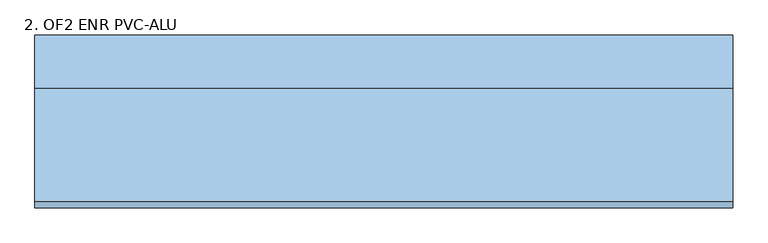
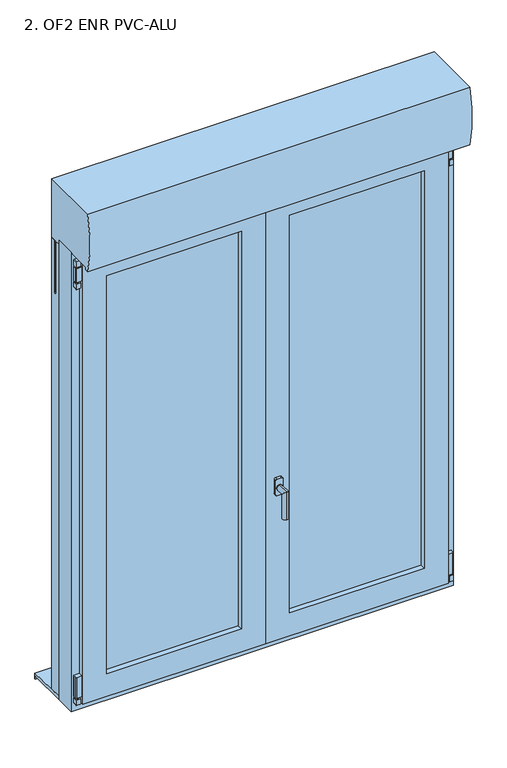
"""IFC4 building model written with IfcOpenShell, lengths in millimetres: window geometry, 2. OF2 ENR PVC-ALU : 130X165 (LXH) cm."""

from ifc_helpers import new_model, si_unit, point, frame, frame_2d, origin, place, context, project, spatial, polyline, circle_curve, ellipse_curve, trimmed, segment, composite_curve, outline, extrude, faceted_brep, source, transform, mapped, element, save
from ifc_brep_helpers import plane_surface, cylinder_surface, advanced_brep


def window_2_of2_enr_pvc_alu_a784acc1(model_context):
    return source(origin(), model_context, "Body", "SolidModel", [
        extrude(outline(composite_curve([segment(polyline([(2401.5409737, -626.56), (2419.5732983, -626.56)]), True, "CONTINUOUS"), segment(trimmed(circle_curve(frame_2d((2419.5732983, -628.5276754)), 1.9676754), [point((2419.5732983, -626.56))], [point((2421.5409737, -628.5276754))], False, "CARTESIAN"), True, "CONTINUOUS"), segment(polyline([(2421.5409737, -628.5276754), (2421.5409737, -639.5663831)]), True, "CONTINUOUS"), segment(trimmed(circle_curve(frame_2d((2419.5473568, -639.5663831)), 1.9936169), [point((2421.5409737, -639.5663831))], [point((2419.5473568, -641.56))], False, "CARTESIAN"), True, "CONTINUOUS"), segment(polyline([(2419.5473568, -641.56), (2401.5409737, -641.56), (2401.5409737, -626.56)]), True, "CONTINUOUS")], self_intersect=False)), frame((0.0, -115.0338923, 0.0), z_axis=(0.0, 1.0, 0.0), x_axis=(0.0, 0.0, 1.0)), (0.0, 0.0, 1.0), 15.0),
        extrude(outline(composite_curve([segment(trimmed(circle_curve(frame_2d((-634.2805562, -107.5434807)), 5.0), [point((-629.2805562, -107.5434807))], [point((-639.2805562, -107.5434807))], False, "CARTESIAN"), True, "CONTINUOUS"), segment(trimmed(circle_curve(frame_2d((-634.2805562, -107.5434807)), 5.0), [point((-639.2805562, -107.5434807))], [point((-629.2805562, -107.5434807))], False, "CARTESIAN"), True, "CONTINUOUS")], self_intersect=False)), frame((0.0, 0.0, 2341.5409737), z_axis=(0.0, 0.0, 1.0), x_axis=(1.0, 0.0, 0.0)), (0.0, 0.0, 1.0), 60.0),
        extrude(outline(composite_curve([segment(polyline([(-621.56, -100.0434807), (-621.56, -115.0434807), (-639.5418225, -115.0434807)]), True, "CONTINUOUS"), segment(trimmed(circle_curve(frame_2d((-639.5418225, -113.0253033)), 2.0181775), [point((-639.5418225, -115.0434807))], [point((-641.56, -113.0253033))], False, "CARTESIAN"), True, "CONTINUOUS"), segment(polyline([(-641.56, -113.0253033), (-641.56, -102.001657)]), True, "CONTINUOUS"), segment(trimmed(circle_curve(frame_2d((-639.6018237, -102.001657)), 1.9581763), [point((-641.56, -102.001657))], [point((-639.6018237, -100.0434807))], False, "CARTESIAN"), True, "CONTINUOUS"), segment(polyline([(-639.6018237, -100.0434807), (-621.56, -100.0434807)]), True, "CONTINUOUS")], self_intersect=False)), frame((0.0, 0.0, 2347.2674355), z_axis=(0.0, 0.0, 1.0), x_axis=(1.0, 0.0, 0.0)), (0.0, 0.0, 1.0), 50.0),
        extrude(outline(composite_curve([segment(polyline([(2342.2674355, -641.7805562), (2323.9176409, -641.7805562)]), True, "CONTINUOUS"), segment(trimmed(circle_curve(frame_2d((2324.2411049, -639.8068867)), 2.0), [point((2323.9176409, -641.7805562))], [point((2322.2674355, -640.1303507))], False, "CARTESIAN"), True, "CONTINUOUS"), segment(polyline([(2322.2674355, -640.1303507), (2322.2674355, -628.7898059)]), True, "CONTINUOUS"), segment(trimmed(circle_curve(frame_2d((2324.2766853, -628.7898059)), 2.0092498), [point((2322.2674355, -628.7898059))], [point((2324.2766853, -626.7805562))], False, "CARTESIAN"), True, "CONTINUOUS"), segment(polyline([(2324.2766853, -626.7805562), (2342.2674355, -626.7805562), (2342.2674355, -641.7805562)]), True, "CONTINUOUS")], self_intersect=False)), frame((0.0, -115.0338923, 0.0), z_axis=(0.0, 1.0, 0.0), x_axis=(0.0, 0.0, 1.0)), (0.0, 0.0, 1.0), 15.0),
        extrude(outline(composite_curve([segment(trimmed(circle_curve(frame_2d((-634.2805562, -107.5434807)), 5.0), [point((-629.2805562, -107.5434807))], [point((-639.2805562, -107.5434807))], False, "CARTESIAN"), True, "CONTINUOUS"), segment(trimmed(circle_curve(frame_2d((-634.2805562, -107.5434807)), 5.0), [point((-639.2805562, -107.5434807))], [point((-629.2805562, -107.5434807))], False, "CARTESIAN"), True, "CONTINUOUS")], self_intersect=False)), frame((0.0, 0.0, 848.448), z_axis=(0.0, 0.0, 1.0), x_axis=(1.0, 0.0, 0.0)), (0.0, 0.0, 1.0), 5.0),
        extrude(outline(composite_curve([segment(polyline([(848.448, -641.7805562), (830.0982054, -641.7805562)]), True, "CONTINUOUS"), segment(trimmed(circle_curve(frame_2d((830.4216694, -639.8068867)), 2.0), [point((830.0982054, -641.7805562))], [point((828.448, -640.1303507))], False, "CARTESIAN"), True, "CONTINUOUS"), segment(polyline([(828.448, -640.1303507), (828.448, -628.7898059)]), True, "CONTINUOUS"), segment(trimmed(circle_curve(frame_2d((830.4572498, -628.7898059)), 2.0092498), [point((828.448, -628.7898059))], [point((830.4572498, -626.7805562))], False, "CARTESIAN"), True, "CONTINUOUS"), segment(polyline([(830.4572498, -626.7805562), (848.448, -626.7805562), (848.448, -641.7805562)]), True, "CONTINUOUS")], self_intersect=False)), frame((0.0, -115.0338923, 0.0), z_axis=(0.0, 1.0, 0.0), x_axis=(0.0, 0.0, 1.0)), (0.0, 0.0, 1.0), 15.0),
        extrude(outline(composite_curve([segment(polyline([(-621.56, -100.0434807), (-621.56, -115.0434807), (-639.5418225, -115.0434807)]), True, "CONTINUOUS"), segment(trimmed(circle_curve(frame_2d((-639.5418225, -113.0253033)), 2.0181775), [point((-639.5418225, -115.0434807))], [point((-641.56, -113.0253033))], False, "CARTESIAN"), True, "CONTINUOUS"), segment(polyline([(-641.56, -113.0253033), (-641.56, -102.001657)]), True, "CONTINUOUS"), segment(trimmed(circle_curve(frame_2d((-639.6018237, -102.001657)), 1.9581763), [point((-641.56, -102.001657))], [point((-639.6018237, -100.0434807))], False, "CARTESIAN"), True, "CONTINUOUS"), segment(polyline([(-639.6018237, -100.0434807), (-621.56, -100.0434807)]), True, "CONTINUOUS")], self_intersect=False)), frame((0.0, 0.0, 853.448), z_axis=(0.0, 0.0, 1.0), x_axis=(1.0, 0.0, 0.0)), (0.0, 0.0, 1.0), 75.0),
        extrude(outline(composite_curve([segment(polyline([(2401.5409737, 626.552), (2401.5409737, 641.552), (2419.5473568, 641.552)]), True, "CONTINUOUS"), segment(trimmed(circle_curve(frame_2d((2419.5473568, 639.5583831)), 1.9936169), [point((2419.5473568, 641.552))], [point((2421.5409737, 639.5583831))], False, "CARTESIAN"), True, "CONTINUOUS"), segment(polyline([(2421.5409737, 639.5583831), (2421.5409737, 628.5196754)]), True, "CONTINUOUS"), segment(trimmed(circle_curve(frame_2d((2419.5732983, 628.5196754)), 1.9676754), [point((2421.5409737, 628.5196754))], [point((2419.5732983, 626.552))], False, "CARTESIAN"), True, "CONTINUOUS"), segment(polyline([(2419.5732983, 626.552), (2401.5409737, 626.552)]), True, "CONTINUOUS")], self_intersect=False)), frame((0.0, -115.0338923, 0.0), z_axis=(0.0, 1.0, 0.0), x_axis=(0.0, 0.0, 1.0)), (0.0, 0.0, 1.0), 15.0),
        extrude(outline(composite_curve([segment(trimmed(circle_curve(frame_2d((634.2725562, -107.5434807)), 5.0), [point((629.2725562, -107.5434807))], [point((639.2725562, -107.5434807))], False, "CARTESIAN"), True, "CONTINUOUS"), segment(trimmed(circle_curve(frame_2d((634.2725562, -107.5434807)), 5.0), [point((639.2725562, -107.5434807))], [point((629.2725562, -107.5434807))], False, "CARTESIAN"), True, "CONTINUOUS")], self_intersect=False)), frame((0.0, 0.0, 2341.5409737), z_axis=(0.0, 0.0, 1.0), x_axis=(1.0, 0.0, 0.0)), (0.0, 0.0, 1.0), 60.0),
        extrude(outline(composite_curve([segment(polyline([(621.552, -100.0434807), (639.5938237, -100.0434807)]), True, "CONTINUOUS"), segment(trimmed(circle_curve(frame_2d((639.5938237, -102.001657)), 1.9581763), [point((639.5938237, -100.0434807))], [point((641.552, -102.001657))], False, "CARTESIAN"), True, "CONTINUOUS"), segment(polyline([(641.552, -102.001657), (641.552, -113.0253033)]), True, "CONTINUOUS"), segment(trimmed(circle_curve(frame_2d((639.5338225, -113.0253033)), 2.0181775), [point((641.552, -113.0253033))], [point((639.5338225, -115.0434807))], False, "CARTESIAN"), True, "CONTINUOUS"), segment(polyline([(639.5338225, -115.0434807), (621.552, -115.0434807), (621.552, -100.0434807)]), True, "CONTINUOUS")], self_intersect=False)), frame((0.0, 0.0, 2347.2674355), z_axis=(0.0, 0.0, 1.0), x_axis=(1.0, 0.0, 0.0)), (0.0, 0.0, 1.0), 50.0),
        extrude(outline(composite_curve([segment(polyline([(2342.2674355, 641.7725562), (2342.2674355, 626.7725562), (2324.2766853, 626.7725562)]), True, "CONTINUOUS"), segment(trimmed(circle_curve(frame_2d((2324.2766853, 628.7818059)), 2.0092498), [point((2324.2766853, 626.7725562))], [point((2322.2674355, 628.7818059))], False, "CARTESIAN"), True, "CONTINUOUS"), segment(polyline([(2322.2674355, 628.7818059), (2322.2674355, 640.1223507)]), True, "CONTINUOUS"), segment(trimmed(circle_curve(frame_2d((2324.2411049, 639.7988867)), 2.0), [point((2322.2674355, 640.1223507))], [point((2323.9176409, 641.7725562))], False, "CARTESIAN"), True, "CONTINUOUS"), segment(polyline([(2323.9176409, 641.7725562), (2342.2674355, 641.7725562)]), True, "CONTINUOUS")], self_intersect=False)), frame((0.0, -115.0338923, 0.0), z_axis=(0.0, 1.0, 0.0), x_axis=(0.0, 0.0, 1.0)), (0.0, 0.0, 1.0), 15.0),
        extrude(outline(composite_curve([segment(trimmed(circle_curve(frame_2d((634.2725562, -107.5434807)), 5.0), [point((629.2725562, -107.5434807))], [point((639.2725562, -107.5434807))], False, "CARTESIAN"), True, "CONTINUOUS"), segment(trimmed(circle_curve(frame_2d((634.2725562, -107.5434807)), 5.0), [point((639.2725562, -107.5434807))], [point((629.2725562, -107.5434807))], False, "CARTESIAN"), True, "CONTINUOUS")], self_intersect=False)), frame((0.0, 0.0, 848.448), z_axis=(0.0, 0.0, 1.0), x_axis=(1.0, 0.0, 0.0)), (0.0, 0.0, 1.0), 5.0),
        extrude(outline(composite_curve([segment(polyline([(848.448, 641.7725562), (848.448, 626.7725562), (830.4572498, 626.7725562)]), True, "CONTINUOUS"), segment(trimmed(circle_curve(frame_2d((830.4572498, 628.7818059)), 2.0092498), [point((830.4572498, 626.7725562))], [point((828.448, 628.7818059))], False, "CARTESIAN"), True, "CONTINUOUS"), segment(polyline([(828.448, 628.7818059), (828.448, 640.1223507)]), True, "CONTINUOUS"), segment(trimmed(circle_curve(frame_2d((830.4216694, 639.7988867)), 2.0), [point((828.448, 640.1223507))], [point((830.0982054, 641.7725562))], False, "CARTESIAN"), True, "CONTINUOUS"), segment(polyline([(830.0982054, 641.7725562), (848.448, 641.7725562)]), True, "CONTINUOUS")], self_intersect=False)), frame((0.0, -115.0338923, 0.0), z_axis=(0.0, 1.0, 0.0), x_axis=(0.0, 0.0, 1.0)), (0.0, 0.0, 1.0), 15.0),
        extrude(outline(composite_curve([segment(polyline([(621.552, -100.0434807), (639.5938237, -100.0434807)]), True, "CONTINUOUS"), segment(trimmed(circle_curve(frame_2d((639.5938237, -102.001657)), 1.9581763), [point((639.5938237, -100.0434807))], [point((641.552, -102.001657))], False, "CARTESIAN"), True, "CONTINUOUS"), segment(polyline([(641.552, -102.001657), (641.552, -113.0253033)]), True, "CONTINUOUS"), segment(trimmed(circle_curve(frame_2d((639.5338225, -113.0253033)), 2.0181775), [point((641.552, -113.0253033))], [point((639.5338225, -115.0434807))], False, "CARTESIAN"), True, "CONTINUOUS"), segment(polyline([(639.5338225, -115.0434807), (621.552, -115.0434807), (621.552, -100.0434807)]), True, "CONTINUOUS")], self_intersect=False)), frame((0.0, 0.0, 853.448), z_axis=(0.0, 0.0, 1.0), x_axis=(1.0, 0.0, 0.0)), (0.0, 0.0, 1.0), 75.0),
        faceted_brep([(649.992, -28.9, 2450.0), (649.992, -100.02, 2450.0), (649.992, -100.02, 800.0), (649.992, -28.9, 800.0), (-650.008, -100.02, 2450.0), (-650.008, -100.02, 800.0), (613.416, -100.02, 836.576), (-613.432, -100.02, 836.576), (-613.432, -100.02, 2413.424), (613.416, -100.02, 2413.424), (-650.008, -28.9, 800.0), (-650.008, -28.9, 2450.0), (592.0903858, -28.9, 2392.0983858), (-592.1063858, -28.9, 2392.0983858), (-592.1063858, -28.9, 857.9016142), (592.0903858, -28.9, 857.9016142), (613.416, -44.648, 2413.424), (613.416, -44.648, 836.576), (-613.432, -44.648, 2413.424), (-613.432, -44.648, 836.576), (592.0903858, -44.648, 857.9016142), (-592.1063858, -44.648, 857.9016142), (-592.1063858, -44.648, 2392.0983858), (592.0903858, -44.648, 2392.0983858)], [[[0, 1, 2, 3]], [[1, 4, 5, 2], [6, 7, 8, 9]], [[3, 2, 5, 10]], [[3, 10, 11, 0], [12, 13, 14, 15]], [[9, 16, 17, 6]], [[16, 18, 19, 17], [20, 21, 22, 23]], [[6, 17, 19, 7]], [[23, 12, 15, 20]], [[20, 15, 14, 21]], [[10, 5, 4, 11]], [[7, 19, 18, 8]], [[21, 14, 13, 22]], [[11, 4, 1, 0]], [[8, 18, 16, 9]], [[22, 13, 12, 23]]]),
        faceted_brep([(-650.0, -100.02, 2450.0), (-650.0, -28.9, 2450.0), (-650.0, -28.9, 800.0), (-650.0, -100.02, 800.0), (650.0, -28.9, 2450.0), (650.0, -28.9, 800.0), (-592.0983858, -28.9, 857.9016142), (592.0983858, -28.9, 857.9016142), (592.0983858, -28.9, 2392.0983858), (-592.0983858, -28.9, 2392.0983858), (650.0, -100.02, 800.0), (650.0, -100.02, 2450.0), (-613.424, -100.02, 2413.424), (613.424, -100.02, 2413.424), (613.424, -100.02, 836.576), (-613.424, -100.02, 836.576), (-613.424, -44.648, 2413.424), (-613.424, -44.648, 836.576), (613.424, -44.648, 836.576), (613.424, -44.648, 2413.424), (-592.0983858, -44.648, 2392.0983858), (592.0983858, -44.648, 2392.0983858), (592.0983858, -44.648, 857.9016142), (-592.0983858, -44.648, 857.9016142)], [[[0, 1, 2, 3]], [[1, 4, 5, 2], [6, 7, 8, 9]], [[3, 2, 5, 10]], [[3, 10, 11, 0], [12, 13, 14, 15]], [[16, 12, 15, 17]], [[17, 15, 14, 18]], [[17, 18, 19, 16], [20, 21, 22, 23]], [[9, 20, 23, 6]], [[6, 23, 22, 7]], [[10, 5, 4, 11]], [[18, 14, 13, 19]], [[7, 22, 21, 8]], [[11, 4, 1, 0]], [[19, 13, 12, 16]], [[8, 21, 20, 9]]]),
        faceted_brep([(-561.6166701, -100.019954, 2361.6086701), (-561.6166701, -48.2039543, 2361.6086701), (-561.6166701, -48.2039543, 888.3913299), (-561.6166701, -100.019954, 888.3913299), (-586.5594701, -48.2039543, 863.4485299), (-35.0045299, -48.2039543, 863.4485299), (-35.0045299, -48.2039543, 2386.5514701), (-586.5594701, -48.2039543, 2386.5514701), (-59.9473299, -48.2039543, 2361.6086701), (-59.9473299, -48.2039543, 888.3913299), (-59.9473299, -100.019954, 888.3913299), (-59.9473299, -100.019954, 2361.6086701), (-553.4255117, -100.019954, 2353.4175117), (-68.1384883, -100.019954, 2353.4175117), (-68.1384883, -100.019954, 896.5824883), (-553.4255117, -100.019954, 896.5824883), (-586.5594701, -28.7475756, 2386.5514701), (-586.5594701, -28.7475756, 863.4485299), (-35.0045299, -28.7475756, 2386.5514701), (-35.0045299, -28.7475756, 863.4485299), (-535.3473386, -28.7475756, 914.6606614), (-86.2166614, -28.7475756, 914.6606614), (-86.2166614, -28.7475756, 2335.3393386), (-535.3473386, -28.7475756, 2335.3393386), (-535.3473386, -41.9786213, 2335.3393386), (-535.3473386, -41.9786213, 914.6606614), (-553.4255117, -41.9786213, 896.5824883), (-68.1384883, -41.9786213, 896.5824883), (-68.1384883, -41.9786213, 2353.4175117), (-553.4255117, -41.9786213, 2353.4175117), (-86.2166614, -41.9786213, 2335.3393386), (-86.2166614, -41.9786213, 914.6606614), (-539.5320492, -72.9786213, 2339.5240492), (-539.5320492, -96.019954, 2339.5240492), (-539.5320492, -96.019954, 910.4759508), (-539.5320492, -72.9786213, 910.4759508), (-553.4255117, -96.019954, 896.5824883), (-68.1384883, -96.019954, 896.5824883), (-68.1384883, -96.019954, 2353.4175117), (-553.4255117, -96.019954, 2353.4175117), (-82.0319508, -96.019954, 2339.5240492), (-82.0319508, -96.019954, 910.4759508), (-82.0319508, -72.9786213, 910.4759508), (-553.4255117, -72.9786213, 2353.4175117), (-68.1384883, -72.9786213, 2353.4175117), (-68.1384883, -72.9786213, 896.5824883), (-553.4255117, -72.9786213, 896.5824883), (-82.0319508, -72.9786213, 2339.5240492), (-68.1384883, -68.9786213, 896.5824883), (-68.1384883, -68.9786213, 2353.4175117), (-553.4255117, -68.9786213, 896.5824883), (-553.4255117, -68.9786213, 2353.4175117), (-536.2054041, -68.9786213, 2336.1974041), (-85.3585959, -68.9786213, 2336.1974041), (-85.3585959, -68.9786213, 913.8025959), (-536.2054041, -68.9786213, 913.8025959), (-85.3585959, -45.9786213, 913.8025959), (-85.3585959, -45.9786213, 2336.1974041), (-536.2054041, -45.9786213, 913.8025959), (-536.2054041, -45.9786213, 2336.1974041), (-553.4255117, -45.9786213, 2353.4175117), (-553.4255117, -45.9786213, 896.5824883), (-68.1384883, -45.9786213, 2353.4175117), (-68.1384883, -45.9786213, 896.5824883)], [[[0, 1, 2, 3]], [[4, 5, 6, 7], [1, 8, 9, 2]], [[3, 2, 9, 10]], [[3, 10, 11, 0], [12, 13, 14, 15]], [[7, 16, 17, 4]], [[16, 18, 19, 17], [20, 21, 22, 23]], [[4, 17, 19, 5]], [[23, 24, 25, 20]], [[26, 27, 28, 29], [24, 30, 31, 25]], [[20, 25, 31, 21]], [[32, 33, 34, 35]], [[36, 37, 38, 39], [33, 40, 41, 34]], [[35, 34, 41, 42]], [[43, 44, 45, 46], [35, 42, 47, 32]], [[10, 9, 8, 11]], [[5, 19, 18, 6]], [[21, 31, 30, 22]], [[42, 41, 40, 47]], [[37, 14, 13, 38]], [[36, 15, 14, 37]], [[39, 12, 15, 36]], [[48, 45, 44, 49]], [[50, 46, 45, 48]], [[51, 43, 46, 50]], [[50, 48, 49, 51], [52, 53, 54, 55]], [[56, 54, 53, 57]], [[58, 55, 54, 56]], [[59, 52, 55, 58]], [[29, 60, 61, 26]], [[60, 62, 63, 61], [58, 56, 57, 59]], [[26, 61, 63, 27]], [[27, 63, 62, 28]], [[11, 8, 1, 0]], [[6, 18, 16, 7]], [[22, 30, 24, 23]], [[47, 40, 33, 32]], [[38, 13, 12, 39]], [[49, 44, 43, 51]], [[57, 53, 52, 59]], [[28, 62, 60, 29]]]),
        extrude(outline(polyline([(-553.408, -100.019954), (-553.408, -96.019954), (-68.108, -96.019954), (-68.108, -100.019954), (-553.408, -100.019954)])), frame((0.0, 0.0, 896.5824883), z_axis=(0.0, 0.0, 1.0), x_axis=(1.0, 0.0, 0.0)), (0.0, 0.0, 1.0), 1456.8350233),
        extrude(outline(polyline([(-553.408, -72.9786213), (-553.408, -68.9786213), (-68.108, -68.9786213), (-68.108, -72.9786213), (-553.408, -72.9786213)])), frame((0.0, 0.0, 896.5824883), z_axis=(0.0, 0.0, 1.0), x_axis=(1.0, 0.0, 0.0)), (0.0, 0.0, 1.0), 1456.8350233),
        extrude(outline(polyline([(-553.408, -45.9786213), (-553.408, -41.9786213), (-68.108, -41.9786213), (-68.108, -45.9786213), (-553.408, -45.9786213)])), frame((0.0, 0.0, 896.5824883), z_axis=(0.0, 0.0, 1.0), x_axis=(1.0, 0.0, 0.0)), (0.0, 0.0, 1.0), 1456.8350233),
        faceted_brep([(-0.004, -100.0434807, 2421.552), (-0.004, -119.3239543, 2421.552), (-0.004, -119.3239543, 828.448), (-0.004, -100.0434807, 828.448), (-621.56, -119.3239543, 2421.552), (-621.56, -119.3239543, 828.448), (-82.2054957, -119.3239543, 910.6494957), (-539.3585043, -119.3239543, 910.6494957), (-539.3585043, -119.3239543, 2339.3505043), (-82.2054957, -119.3239543, 2339.3505043), (-621.56, -100.0434807, 828.448), (-621.56, -100.0434807, 2421.552), (-20.324, -100.0434807, 2401.232), (-601.24, -100.0434807, 2401.232), (-601.24, -100.0434807, 848.768), (-20.324, -100.0434807, 848.768), (-82.2054957, -100.019954, 2339.3505043), (-82.2054957, -100.019954, 910.6494957), (-59.9473299, -100.019954, 888.3913299), (-561.6166701, -100.019954, 888.3913299), (-561.6166701, -100.019954, 2361.6086701), (-59.9473299, -100.019954, 2361.6086701), (-539.3585043, -100.019954, 2339.3505043), (-539.3585043, -100.019954, 910.6494957), (-59.9473299, -48.2039543, 2361.6086701), (-59.9473299, -48.2039543, 888.3913299), (-29.4576142, -48.2039543, 857.9016142), (-592.1063858, -48.2039543, 857.9016142), (-592.1063858, -48.2039543, 2392.0983858), (-29.4576142, -48.2039543, 2392.0983858), (-561.6166701, -48.2039543, 2361.6086701), (-561.6166701, -48.2039543, 888.3913299), (-29.4576142, -44.648, 2392.0983858), (-29.4576142, -44.648, 857.9016142), (-20.324, -44.648, 848.768), (-601.24, -44.648, 848.768), (-601.24, -44.648, 2401.232), (-20.324, -44.648, 2401.232), (-592.1063858, -44.648, 2392.0983858), (-592.1063858, -44.648, 857.9016142)], [[[0, 1, 2, 3]], [[1, 4, 5, 2], [6, 7, 8, 9]], [[3, 2, 5, 10]], [[3, 10, 11, 0], [12, 13, 14, 15]], [[9, 16, 17, 6]], [[18, 19, 20, 21], [16, 22, 23, 17]], [[6, 17, 23, 7]], [[21, 24, 25, 18]], [[26, 27, 28, 29], [24, 30, 31, 25]], [[18, 25, 31, 19]], [[29, 32, 33, 26]], [[34, 35, 36, 37], [32, 38, 39, 33]], [[26, 33, 39, 27]], [[37, 12, 15, 34]], [[34, 15, 14, 35]], [[10, 5, 4, 11]], [[7, 23, 22, 8]], [[19, 31, 30, 20]], [[27, 39, 38, 28]], [[35, 14, 13, 36]], [[11, 4, 1, 0]], [[8, 22, 16, 9]], [[20, 30, 24, 21]], [[28, 38, 32, 29]], [[36, 13, 12, 37]]]),
        extrude(outline(polyline([(553.4, -96.019954), (553.4, -100.019954), (68.1, -100.019954), (68.1, -96.019954), (553.4, -96.019954)])), frame((0.0, 0.0, 896.5824883), z_axis=(0.0, 0.0, 1.0), x_axis=(1.0, 0.0, 0.0)), (0.0, 0.0, 1.0), 1456.8350233),
        extrude(outline(polyline([(553.4, -68.9786213), (553.4, -72.9786213), (68.1, -72.9786213), (68.1, -68.9786213), (553.4, -68.9786213)])), frame((0.0, 0.0, 896.5824883), z_axis=(0.0, 0.0, 1.0), x_axis=(1.0, 0.0, 0.0)), (0.0, 0.0, 1.0), 1456.8350233),
        extrude(outline(polyline([(553.4, -41.9786213), (553.4, -45.9786213), (68.1, -45.9786213), (68.1, -41.9786213), (553.4, -41.9786213)])), frame((0.0, 0.0, 896.5824883), z_axis=(0.0, 0.0, 1.0), x_axis=(1.0, 0.0, 0.0)), (0.0, 0.0, 1.0), 1456.8350233),
        extrude(outline(polyline([(20.324, -100.0434807), (-20.316, -100.0434807), (-20.316, -44.648), (-34.9965299, -44.648), (-34.9965299, -28.7475756), (35.0045299, -28.7475756), (35.0045299, -44.648), (20.324, -44.648), (20.324, -100.0434807)])), frame((0.0, 0.0, 857.9016142), z_axis=(0.0, 0.0, 1.0), x_axis=(1.0, 0.0, 0.0)), (0.0, 0.0, 1.0), 1534.2),
        faceted_brep([(561.6086701, -48.2039543, 2361.6086701), (561.6086701, -100.019954, 2361.6086701), (561.6086701, -100.019954, 888.3913299), (561.6086701, -48.2039543, 888.3913299), (59.9393299, -100.019954, 2361.6086701), (59.9393299, -100.019954, 888.3913299), (553.4175117, -100.019954, 896.5824883), (68.1304883, -100.019954, 896.5824883), (68.1304883, -100.019954, 2353.4175117), (553.4175117, -100.019954, 2353.4175117), (59.9393299, -48.2039543, 888.3913299), (586.5514701, -48.2039543, 2386.5514701), (34.9965299, -48.2039543, 2386.5514701), (34.9965299, -48.2039543, 863.4485299), (586.5514701, -48.2039543, 863.4485299), (59.9393299, -48.2039543, 2361.6086701), (586.5514701, -28.7475756, 2386.5514701), (586.5514701, -28.7475756, 863.4485299), (34.9965299, -28.7475756, 863.4485299), (34.9965299, -28.7475756, 2386.5514701), (535.3393386, -28.7475756, 2335.3393386), (86.2086614, -28.7475756, 2335.3393386), (86.2086614, -28.7475756, 914.6606614), (535.3393386, -28.7475756, 914.6606614), (535.3393386, -41.9786213, 2335.3393386), (535.3393386, -41.9786213, 914.6606614), (86.2086614, -41.9786213, 914.6606614), (553.4175117, -41.9786213, 2353.4175117), (68.1304883, -41.9786213, 2353.4175117), (68.1304883, -41.9786213, 896.5824883), (553.4175117, -41.9786213, 896.5824883), (86.2086614, -41.9786213, 2335.3393386), (539.5240492, -96.019954, 2339.5240492), (539.5240492, -72.9786213, 2339.5240492), (539.5240492, -72.9786213, 910.4759508), (539.5240492, -96.019954, 910.4759508), (553.4175117, -72.9786213, 896.5824883), (68.1304883, -72.9786213, 896.5824883), (68.1304883, -72.9786213, 2353.4175117), (553.4175117, -72.9786213, 2353.4175117), (82.0239508, -72.9786213, 2339.5240492), (82.0239508, -72.9786213, 910.4759508), (82.0239508, -96.019954, 910.4759508), (553.4175117, -96.019954, 2353.4175117), (68.1304883, -96.019954, 2353.4175117), (68.1304883, -96.019954, 896.5824883), (553.4175117, -96.019954, 896.5824883), (82.0239508, -96.019954, 2339.5240492), (553.4175117, -68.9786213, 896.5824883), (68.1304883, -68.9786213, 896.5824883), (68.1304883, -68.9786213, 2353.4175117), (553.4175117, -68.9786213, 2353.4175117), (536.1974041, -68.9786213, 913.8025959), (85.3505959, -68.9786213, 913.8025959), (85.3505959, -68.9786213, 2336.1974041), (536.1974041, -68.9786213, 2336.1974041), (536.1974041, -45.9786213, 913.8025959), (85.3505959, -45.9786213, 913.8025959), (85.3505959, -45.9786213, 2336.1974041), (536.1974041, -45.9786213, 2336.1974041), (553.4175117, -45.9786213, 2353.4175117), (553.4175117, -45.9786213, 896.5824883), (68.1304883, -45.9786213, 896.5824883), (68.1304883, -45.9786213, 2353.4175117)], [[[0, 1, 2, 3]], [[1, 4, 5, 2], [6, 7, 8, 9]], [[3, 2, 5, 10]], [[11, 12, 13, 14], [3, 10, 15, 0]], [[16, 11, 14, 17]], [[17, 14, 13, 18]], [[17, 18, 19, 16], [20, 21, 22, 23]], [[24, 20, 23, 25]], [[25, 23, 22, 26]], [[27, 28, 29, 30], [25, 26, 31, 24]], [[32, 33, 34, 35]], [[36, 37, 38, 39], [33, 40, 41, 34]], [[35, 34, 41, 42]], [[43, 44, 45, 46], [35, 42, 47, 32]], [[10, 5, 4, 15]], [[18, 13, 12, 19]], [[26, 22, 21, 31]], [[42, 41, 40, 47]], [[6, 46, 45, 7]], [[7, 45, 44, 8]], [[9, 43, 46, 6]], [[36, 48, 49, 37]], [[37, 49, 50, 38]], [[39, 51, 48, 36]], [[51, 50, 49, 48], [52, 53, 54, 55]], [[52, 56, 57, 53]], [[53, 57, 58, 54]], [[55, 59, 56, 52]], [[60, 27, 30, 61]], [[61, 30, 29, 62]], [[61, 62, 63, 60], [59, 58, 57, 56]], [[62, 29, 28, 63]], [[15, 4, 1, 0]], [[19, 12, 11, 16]], [[31, 21, 20, 24]], [[47, 40, 33, 32]], [[8, 44, 43, 9]], [[38, 50, 51, 39]], [[54, 58, 59, 55]], [[63, 28, 27, 60]]]),
        faceted_brep([(-0.004, -119.3239543, 2421.552), (-0.004, -100.0434807, 2421.552), (-0.004, -100.0434807, 828.448), (-0.004, -119.3239543, 828.448), (621.552, -100.0434807, 2421.552), (621.552, -100.0434807, 828.448), (20.316, -100.0434807, 848.768), (601.232, -100.0434807, 848.768), (601.232, -100.0434807, 2401.232), (20.316, -100.0434807, 2401.232), (621.552, -119.3239543, 828.448), (621.552, -119.3239543, 2421.552), (82.1974957, -119.3239543, 2339.3505043), (539.3505043, -119.3239543, 2339.3505043), (539.3505043, -119.3239543, 910.6494957), (82.1974957, -119.3239543, 910.6494957), (82.1974957, -100.019954, 2339.3505043), (82.1974957, -100.019954, 910.6494957), (539.3505043, -100.019954, 910.6494957), (59.9393299, -100.019954, 2361.6086701), (561.6086701, -100.019954, 2361.6086701), (561.6086701, -100.019954, 888.3913299), (59.9393299, -100.019954, 888.3913299), (539.3505043, -100.019954, 2339.3505043), (59.9393299, -48.2039543, 2361.6086701), (59.9393299, -48.2039543, 888.3913299), (561.6086701, -48.2039543, 888.3913299), (29.4496142, -48.2039543, 2392.0983858), (592.0983858, -48.2039543, 2392.0983858), (592.0983858, -48.2039543, 857.9016142), (29.4496142, -48.2039543, 857.9016142), (561.6086701, -48.2039543, 2361.6086701), (29.4496142, -44.648, 2392.0983858), (29.4496142, -44.648, 857.9016142), (592.0983858, -44.648, 857.9016142), (20.316, -44.648, 2401.232), (601.232, -44.648, 2401.232), (601.232, -44.648, 848.768), (20.316, -44.648, 848.768), (592.0983858, -44.648, 2392.0983858)], [[[0, 1, 2, 3]], [[1, 4, 5, 2], [6, 7, 8, 9]], [[3, 2, 5, 10]], [[3, 10, 11, 0], [12, 13, 14, 15]], [[16, 12, 15, 17]], [[17, 15, 14, 18]], [[19, 20, 21, 22], [17, 18, 23, 16]], [[24, 19, 22, 25]], [[25, 22, 21, 26]], [[27, 28, 29, 30], [25, 26, 31, 24]], [[32, 27, 30, 33]], [[33, 30, 29, 34]], [[35, 36, 37, 38], [33, 34, 39, 32]], [[9, 35, 38, 6]], [[6, 38, 37, 7]], [[10, 5, 4, 11]], [[18, 14, 13, 23]], [[26, 21, 20, 31]], [[34, 29, 28, 39]], [[7, 37, 36, 8]], [[11, 4, 1, 0]], [[23, 13, 12, 16]], [[31, 20, 19, 24]], [[39, 28, 27, 32]], [[8, 36, 35, 9]]]),
        extrude(outline(composite_curve([segment(polyline([(-186.3991192, 2440.3409737), (-197.3316724, 2440.3409737)]), True, "CONTINUOUS"), segment(trimmed(circle_curve(frame_2d((189.1050523, 2543.6204869)), 400.0), [point((-197.3316724, 2440.3409737))], [point((-197.3316724, 2646.9))], False, "CARTESIAN"), True, "CONTINUOUS"), segment(polyline([(-197.3316724, 2646.9), (13.0999994, 2646.9), (13.0999994, 2436.0216226), (-4.9499979, 2436.0216226), (-4.9499979, 2434.2216225), (-2.7215215, 2434.2216225), (-2.7215215, 2409.9791617), (-4.9499979, 2409.9791617), (-4.9499979, 2408.1791616), (-2.7215215, 2408.1791616), (-2.7215215, 2383.9367008), (-4.9499979, 2383.9367008), (-4.9499979, 2382.1367006), (-2.7215215, 2382.1367006), (-2.7215215, 2357.8942398), (-4.9499979, 2357.8942398), (-4.9499979, 2356.0942397), (-2.7215215, 2356.0942397), (-2.7215215, 2331.8517789), (-4.9499979, 2331.8517789), (-4.9499979, 2330.0517788), (-2.7215215, 2330.0517788), (-2.7215215, 2305.809318), (-4.9499979, 2305.809318), (-4.9499979, 2304.0093179), (-2.7215215, 2304.0093179), (-2.7215215, 2279.7668571), (-4.9499979, 2279.7668571), (-4.9499979, 2277.966857), (-2.7215215, 2277.966857), (-2.7215215, 2253.7243961), (-4.9499979, 2253.7243961), (-4.9499979, 2251.9243963), (-3.044091, 2251.9243963), (-3.044091, 2248.977424), (-6.4, 2245.6232688), (-9.8999992, 2248.9774251), (-9.8999992, 2251.9243963), (-7.7499979, 2251.9243963), (-7.7499979, 2253.7243961), (-9.9999979, 2253.7243961), (-9.9999979, 2277.9668572), (-7.7499979, 2277.9668572), (-7.7499979, 2279.7668571), (-9.9999979, 2279.7668571), (-9.9999979, 2304.0093181), (-7.7499979, 2304.0093181), (-7.7499979, 2305.809318), (-9.9999979, 2305.809318), (-9.9999979, 2330.051779), (-7.7499979, 2330.051779), (-7.7499979, 2331.8517789), (-9.9999979, 2331.8517789), (-9.9999979, 2356.09424), (-7.7499979, 2356.09424), (-7.7499979, 2357.8942398), (-9.9999979, 2357.8942398), (-9.9999979, 2382.1367009), (-7.7499979, 2382.1367009), (-7.7499979, 2383.9367008), (-9.9999979, 2383.9367008), (-9.9999979, 2408.1791618), (-7.7499979, 2408.1791618), (-7.7499979, 2409.9791617), (-9.9999979, 2409.9791617), (-9.9999979, 2434.2216227), (-7.7499979, 2434.2216227), (-7.7499979, 2436.0216226), (-28.9, 2436.0216226), (-28.9, 2450.0), (-186.3991192, 2450.0), (-186.3991192, 2440.3409737)]), True, "CONTINUOUS")], self_intersect=False)), frame((-650.008, 0.0, 0.0), z_axis=(1.0, 0.0, 0.0), x_axis=(0.0, 1.0, 0.0)), (0.0, 0.0, 1.0), 1300.008),
        advanced_brep(
        [(41.6731873, -129.3239543, 1392.2518349), (41.6731873, -129.3239543, 1372.2518349), (41.6731873, -133.0531938, 1372.2518349), (41.6731873, -133.0531938, 1392.2518349), (41.6731873, -173.0531938, 1392.2518349), (41.6731873, -153.0531938, 1372.2518349), (41.6731873, -173.0531938, 1292.2518349), (41.6731873, -153.0531938, 1292.2518349)],
        [
            (0, 1, circle_curve(frame((41.6731873, -129.3239543, 1382.2518349), z_axis=(0.0, 1.0, 0.0), x_axis=(0.0, 0.0, -1.0)), 10.0)),
            (1, 0, circle_curve(frame((41.6731873, -129.3239543, 1382.2518349), z_axis=(0.0, 1.0, 0.0), x_axis=(0.0, 0.0, -1.0)), 10.0)),
            (2, 3, circle_curve(frame((41.6731873, -133.0531938, 1382.2518349), z_axis=(0.0, -1.0, 0.0), x_axis=(0.0, 0.0, -1.0)), 10.0)),
            (3, 4),
            (4, 5, ellipse_curve(frame((41.6731873, -163.0531938, 1382.2518349), z_axis=(0.0, 0.7071067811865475, 0.7071067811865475), x_axis=(0.0, 0.7071067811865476, -0.7071067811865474)), 14.1421356, 10.0)),
            (5, 2),
            (3, 2, circle_curve(frame((41.6731873, -133.0531938, 1382.2518349), z_axis=(0.0, -1.0, 0.0), x_axis=(0.0, 0.0, -1.0)), 10.0)),
            (5, 4, ellipse_curve(frame((41.6731873, -163.0531938, 1382.2518349), z_axis=(0.0, 0.7071067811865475, 0.7071067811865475), x_axis=(0.0, 0.7071067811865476, -0.7071067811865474)), 14.1421356, 10.0)),
            (6, 7, circle_curve(frame((41.6731873, -163.0531938, 1292.2518349), z_axis=(0.0, 0.0, -1.0), x_axis=(0.0, 1.0, 0.0)), 10.0)),
            (7, 6, circle_curve(frame((41.6731873, -163.0531938, 1292.2518349), z_axis=(0.0, 0.0, -1.0), x_axis=(0.0, 1.0, 0.0)), 10.0)),
            (4, 6),
            (7, 5),
            (0, 3),
            (2, 1),
        ],
        [
            plane_surface(frame((53.896, -129.3239543, 1382.2518349), z_axis=(0.0, 1.0, 0.0), x_axis=(1.0, 0.0, 0.0))),
            cylinder_surface(frame((41.6731873, -133.0531938, 1382.2518349), z_axis=(0.0, 1.0, 0.0), x_axis=(0.0, 0.0, -1.0)), 10.0),
            plane_surface(frame((53.896, -163.0531938, 1292.2518349), z_axis=(0.0, 0.0, -1.0), x_axis=(1.0, 0.0, 0.0))),
            cylinder_surface(frame((41.6731873, -163.0531938, 1382.2518349), z_axis=(0.0, 0.0, 1.0), x_axis=(0.0, 1.0, 0.0)), 10.0),
            cylinder_surface(frame((41.6731873, -129.3239543, 1382.2518349), z_axis=(0.0, 1.0, 0.0), x_axis=(0.0, 0.0, -1.0)), 10.0),
        ],
        [
            (0, [[1, 2]]),
            (1, [[3, 4, 5, 6]]),
            (1, [[7, -6, 8, -4]]),
            (2, [[9, 10]]),
            (3, [[-5, 11, -10, 12]]),
            (3, [[-8, -12, -9, -11]]),
            (4, [[-1, 13, -3, 14]]),
            (4, [[-2, -14, -7, -13]]),
        ],
    ),
        extrude(outline(composite_curve([segment(polyline([(1414.448, 48.896), (1414.448, 33.896)]), True, "CONTINUOUS"), segment(trimmed(circle_curve(frame_2d((1409.448, 33.896)), 5.0), [point((1414.448, 33.896))], [point((1409.448, 28.896))], False, "CARTESIAN"), True, "CONTINUOUS"), segment(polyline([(1409.448, 28.896), (1359.448, 28.896)]), True, "CONTINUOUS"), segment(trimmed(circle_curve(frame_2d((1359.448, 33.896)), 5.0), [point((1359.448, 28.896))], [point((1354.448, 33.896))], False, "CARTESIAN"), True, "CONTINUOUS"), segment(polyline([(1354.448, 33.896), (1354.448, 48.896)]), True, "CONTINUOUS"), segment(trimmed(circle_curve(frame_2d((1359.448, 48.896)), 5.0), [point((1354.448, 48.896))], [point((1359.448, 53.896))], False, "CARTESIAN"), True, "CONTINUOUS"), segment(polyline([(1359.448, 53.896), (1409.448, 53.896)]), True, "CONTINUOUS"), segment(trimmed(circle_curve(frame_2d((1409.448, 48.896)), 5.0), [point((1409.448, 53.896))], [point((1414.448, 48.896))], False, "CARTESIAN"), True, "CONTINUOUS")], self_intersect=False)), frame((0.0, -129.3239543, 0.0), z_axis=(0.0, 1.0, 0.0), x_axis=(0.0, 0.0, 1.0)), (0.0, 0.0, 1.0), 10.0),
        extrude(outline(polyline([(-28.9, 800.0), (-28.9, 812.9639252), (113.0, 809.77529), (113.0, 790.0), (110.0, 790.0), (110.0, 800.0), (-28.9, 800.0)])), frame((-650.0, 0.0, 0.0), z_axis=(1.0, 0.0, 0.0), x_axis=(0.0, 1.0, 0.0)), (0.0, 0.0, 1.0), 1300.0),
        extrude(outline(polyline([(-649.0, -28.9), (-650.0, -28.9), (-650.0, 13.1), (-649.0, 13.1), (-649.0, 2.1), (-629.0, 2.1), (-629.0, -0.9), (-649.0, -0.9), (-649.0, -11.9), (-629.0, -11.9), (-629.0, -14.9), (-649.0, -14.9), (-649.0, -28.9)])), frame((0.0, 0.0, 812.9639252), z_axis=(0.0, 0.0, 1.0), x_axis=(1.0, 0.0, 0.0)), (0.0, 0.0, 1.0), 1623.1),
        extrude(outline(polyline([(649.0, -28.9), (649.0, -14.9), (629.0, -14.9), (629.0, -11.9), (649.0, -11.9), (649.0, -0.9), (629.0, -0.9), (629.0, 2.1), (649.0, 2.1), (649.0, 13.1), (650.0, 13.1), (650.0, -28.9), (649.0, -28.9)])), frame((0.0, 0.0, 812.9639252), z_axis=(0.0, 0.0, 1.0), x_axis=(1.0, 0.0, 0.0)), (0.0, 0.0, 1.0), 1623.1),
    ])


if __name__ == "__main__":
    model = new_model("IFC4")
    model_context = context("Model", 3, world=origin())
    ifc_project = project(units=[si_unit("LENGTHUNIT", "METRE", prefix="MILLI")], contexts=[model_context])
    site = spatial("IfcSite", under=ifc_project)
    building = spatial("IfcBuilding", under=site)
    placement = place(None, origin())
    window_2_of2_enr_pvc_alu_shape = window_2_of2_enr_pvc_alu_a784acc1(model_context)
    element("IfcWindow", 1, ObjectType="2. OF2 ENR PVC-ALU : 130X165 (LXH) cm", at=placement, inside=building, context=model_context, shape_type="MappedRepresentation", body=[
        mapped(window_2_of2_enr_pvc_alu_shape, transform((0.0, 0.0, 0.0), x_axis=(1.0, 0.0, 0.0), y_axis=(0.0, 1.0, 0.0), z_axis=(0.0, 0.0, 1.0))),
    ])
    save(model, "model.ifc")
